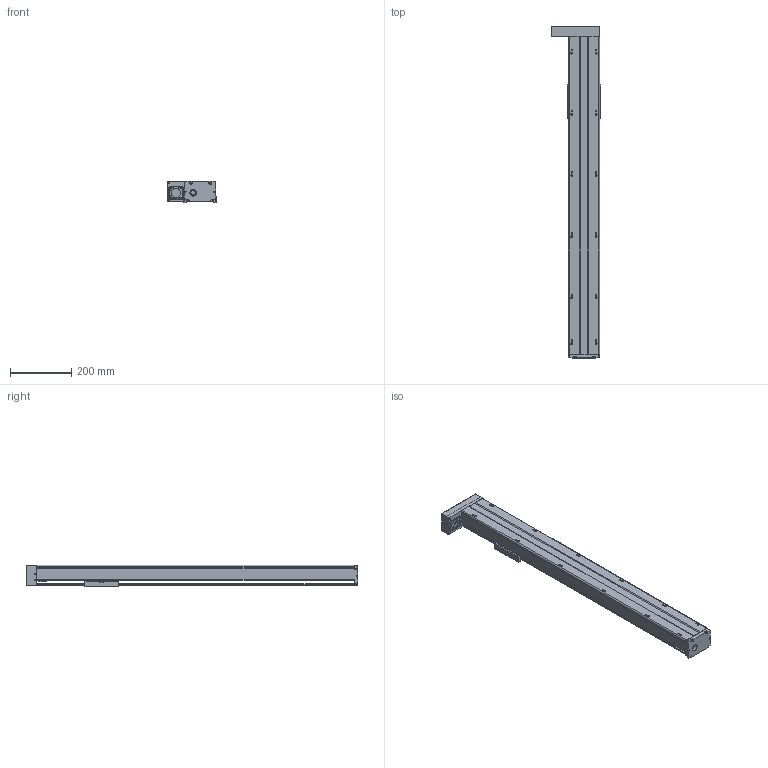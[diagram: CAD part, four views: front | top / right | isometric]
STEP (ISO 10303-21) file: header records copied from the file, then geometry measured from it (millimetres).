
FILE_DESCRIPTION(/* description */ (''),/* implementation_level */ '2;1');
FILE_NAME(/* name */ 'TKA100-FL-850_asm1.stp',/* time_stamp */ '2016-05-17T14:56:50+08:00',/* author */ (''),/* organization */ (''),/* preprocessor_version */ 'ST-DEVELOPER v15',/* originating_system */ 'SIEMENS PLM Software NX 8.5',/* authorisation */ '');
FILE_SCHEMA (('AUTOMOTIVE_DESIGN { 1 0 10303 214 3 1 1 1 }'));
Length unit declared in the file: millimetre
Products named in the file (3): 200-2; 200-1; TKA100-FL-850_asm1
Assembly tree (2 placements, depth 2):
  TKA100-FL-850_asm1
    200-1
    200-2
Bounding box: 162 x 1086 x 71 mm (x, y, z)
Volume: 2273182.8 mm3; surface area: 773643.5 mm2
Topology: 2 solids, 16 shells, 800 faces, 2088 edges, 1357 vertices
Faces by surface type: plane 318, cylinder 305, cone 123, torus 28, bspline 26
Full cylindrical faces by diameter (mm): 2.5 x6, 2.6 x8, 3.3 x11, 3.4 x4, 3.8 x8, 4.2 x21, 4.3 x4, 4.5 x10, 5 x2, 5.5 x20, 6.6 x4, 8 x4, 9 x6, 10 x7, 11 x4, 12 x6, 15.3 x1, 16 x1, 22 x1, 24 x1, 28 x2, 30 x1, 33 x1
Entity records: 29441 total; most frequent: CARTESIAN_POINT 10807, DIRECTION 3815, ORIENTED_EDGE 3620, EDGE_CURVE 1810, AXIS2_PLACEMENT_3D 1505, VERTEX_POINT 1286, EDGE_LOOP 1111, LINE 805
